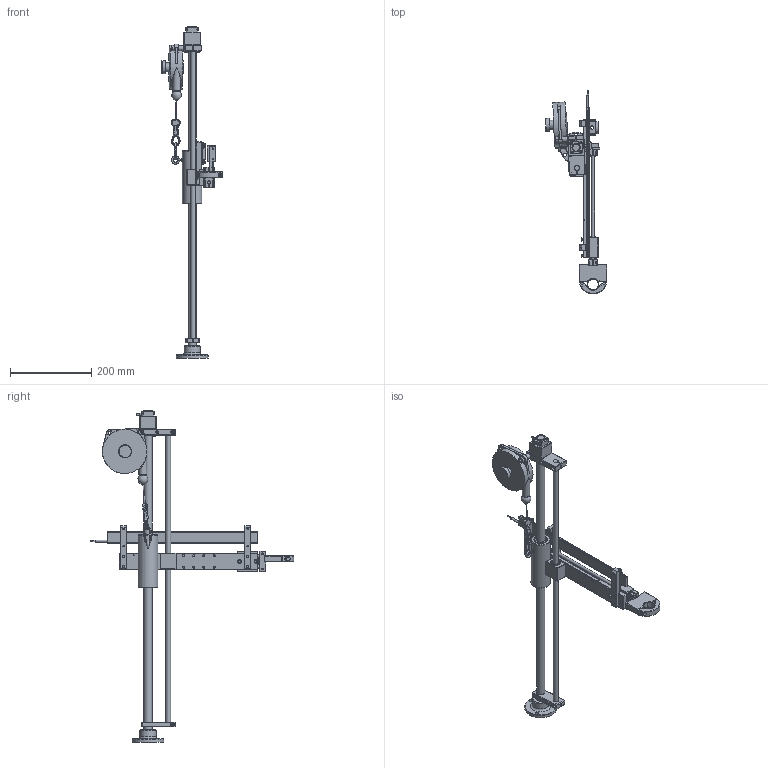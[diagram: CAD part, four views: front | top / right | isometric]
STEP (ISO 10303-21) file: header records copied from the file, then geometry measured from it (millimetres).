
FILE_DESCRIPTION(/* description */ ('Unknown'),/* implementation_level */ '2;1');
FILE_NAME(/* name */ '4-1201009_bras BA 12 PC',/* time_stamp */ '2016-03-24T11:38:18+01:00',/* author */ ('Unknown'),/* organization */ ('Unknown'),/* preprocessor_version */ 'ST-DEVELOPER v16',/* originating_system */ 'DEX',/* authorisation */ $);
FILE_SCHEMA (('AUTOMOTIVE_DESIGN {1 0 10303 214 3 1 1}'));
Length unit declared in the file: millimetre
Products named in the file (54): 4-1201009_bras BA 12 PC; 14-35-3984 Sous ens mat BA12PC; Roulement à aiguilles HK1212; Axe Ø20 x 800 - BA12R DPA; Vis HC M8x10 à bout plat; Anneau élastique pour arbre 12; Rondelle AS1226; Butée à aiguilles AXK1226; Pied BA25; Aimant; 14-35-3984 Sous ens codeur vertical BA12PC; Equilibreur 3-5 Kg; fourreau pour BA12R DPA; Capteur de position angulaire QUADRO-R; Platine fixation fourreau pour BA12R; Axe Ø12 x 732 - BA12R DPA; Platine fixation N°2 - BA12R DPA; CHC M8x50; CHC M4x20; Entretoise; 14-35-3984 Sous ens bras BA12PC; Douille KB8; Boîte à douille; FHC M5x16; 14-35-3984 Plaque support BA12 PC; CHC M5x16; Vis H M5x10 à collerette; Piton M5; Douille KB20; Fourreau; Pivot N°3 - BA12R DPA; Douille KB12; Support bride BA25PC; Bride PCFP25 BFS1; Capteur PCFP25-0200-KAB; Boitier de dérivation; 14-35-3984 Sous ens Coulisses BA12PC; Aimant PCMAG5; CHC M4x16; 14-35-3984 Support aimant BA12PC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
Assembly tree (80 placements, depth 3):
  4-1201009_bras BA 12 PC
    14-35-3984 Sous ens mat BA12PC
      Roulement à aiguilles HK1212  x2
      Axe Ø20 x 800 - BA12R DPA
      Vis HC M8x10 à bout plat  x2
      Anneau élastique pour arbre 12
      Rondelle AS1226  x2
      Butée à aiguilles AXK1226
      Pied BA25
      Aimant
    14-35-3984 Sous ens codeur vertical BA12PC
      Equilibreur 3-5 Kg
      fourreau pour BA12R DPA
      Capteur de position angulaire QUADRO-R
      Platine fixation fourreau pour BA12R
      Axe Ø12 x 732 - BA12R DPA
      Platine fixation N°2 - BA12R DPA
      CHC M8x50
      CHC M4x20  x4
      Entretoise
    14-35-3984 Sous ens bras BA12PC
      Douille KB8  x4
      Boîte à douille
      FHC M5x16  x8
      14-35-3984 Plaque support BA12 PC
      CHC M5x16  x2
      Vis H M5x10 à collerette  x2
      Piton M5
      Douille KB20  x2
      Fourreau
      Pivot N°3 - BA12R DPA
      Douille KB12
      Support bride BA25PC  x2
      Bride PCFP25 BFS1  x2
      Capteur PCFP25-0200-KAB
      Boitier de dérivation
    14-35-3984 Sous ens Coulisses BA12PC
      Aimant PCMAG5
      CHC M4x16  x2
      14-35-3984 Support aimant BA12PC
      14-35-3984 Axe Ø8 x 286  x2
      Butoir
      14-35-3984 Bride arrière BA12PC
    14-35-3984 Sous ens bride avant BA12PC
      CHC M4x16  x2
      CHC M4x30  x2
      Vis HC M3x6
      Aimant NE86
      Bride avant
    Cable equilibreur ajustable
    14-35-3984 Sous ens Pince BA12PC
      CHC M5x45  x2
      Collier
      Placement BA12
      Pince  
Bounding box: 150.9 x 500.62 x 816 mm (x, y, z)
Volume: 1537106.5 mm3; surface area: 427361.7 mm2
Topology: 74 solids, 74 shells, 1880 faces, 4482 edges, 2848 vertices
Faces by surface type: plane 1112, cylinder 525, cone 144, bspline 51, torus 40, sphere 8
Full cylindrical faces by diameter (mm): 1 x5, 1.6 x3, 2 x1, 2.459 x6, 2.5 x5, 3 x1, 3.2 x2, 3.242 x10, 3.3 x6, 3.5 x1, 3.8 x10, 4 x23, 4.134 x7, 4.2 x24, 4.3 x4, 4.5 x1, 4.8 x4, 5 x35, 5.5 x9, 6 x4, 6.5 x1, 6.647 x3, 6.8 x1, 7 x14, 7.8 x1, 8 x17, 8.1 x1, 8.5 x7, 9 x9, 10 x4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
Entity records: 55931 total; most frequent: CARTESIAN_POINT 20088, DIRECTION 6522, ORIENTED_EDGE 5894, EDGE_CURVE 2947, AXIS2_PLACEMENT_3D 2391, FACE_BOUND 2042, VERTEX_POINT 2029, EDGE_LOOP 2014
